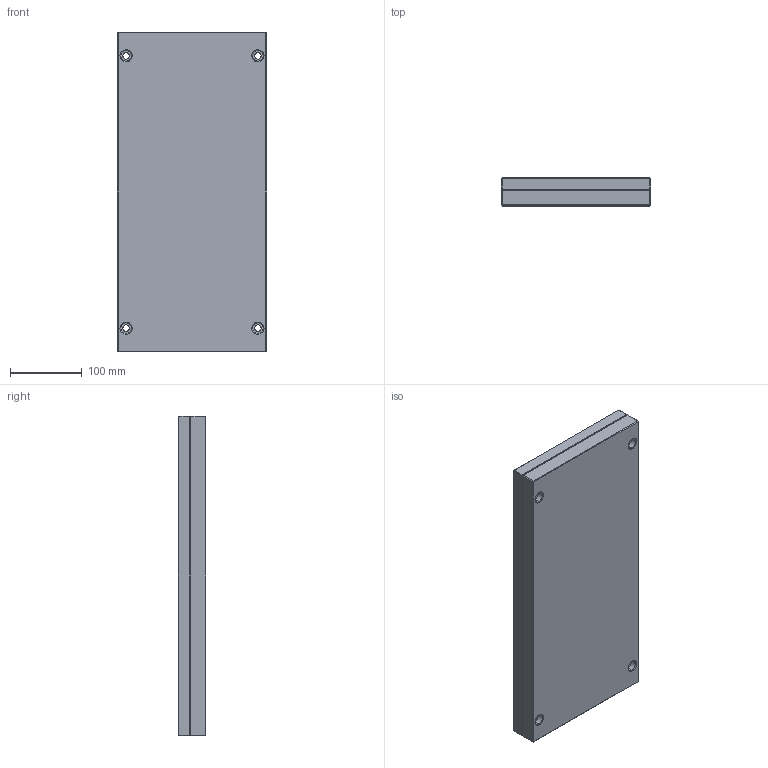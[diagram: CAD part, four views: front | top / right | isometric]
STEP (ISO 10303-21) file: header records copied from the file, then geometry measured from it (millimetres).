
FILE_DESCRIPTION (( 'STEP AP214' ), '1' );
FILE_NAME ('CPE-296x446.STEP', '2020-04-06T14:48:59', ( 'August' ), ( '' ), 'SwSTEP 2.0', 'SolidWorks 2018', '' );
FILE_SCHEMA (( 'AUTOMOTIVE_DESIGN' ));
Length unit declared in the file: millimetre
Products named in the file (1): CPE-296x446
Bounding box: 208 x 39 x 446 mm (x, y, z)
Volume: 3601113.7 mm3; surface area: 422827 mm2
Topology: 2 solids, 2 shells, 96 faces, 200 edges, 112 vertices
Faces by surface type: plane 56, cylinder 24, cone 16
Entity records: 2551 total; most frequent: DIRECTION 458, CARTESIAN_POINT 409, ORIENTED_EDGE 400, EDGE_CURVE 200, AXIS2_PLACEMENT_3D 161, VECTOR 136, LINE 136, EDGE_LOOP 116
